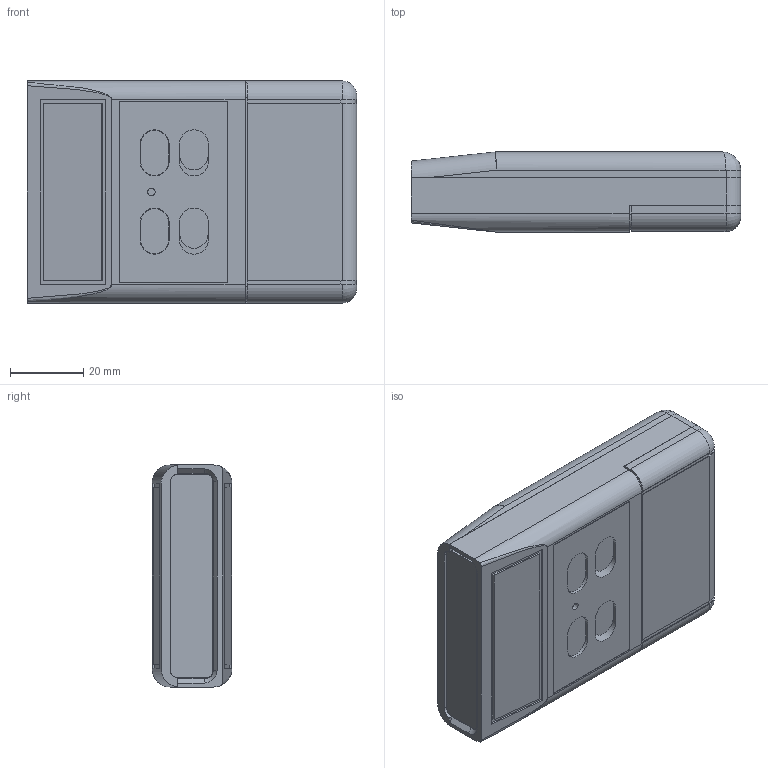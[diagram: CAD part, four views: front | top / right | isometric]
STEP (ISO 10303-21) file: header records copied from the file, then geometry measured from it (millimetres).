
FILE_DESCRIPTION (( 'STEP AP214' ), '1' );
FILE_NAME ('Conjunt PP64E.STEP', '2017-09-14T07:35:24', ( 'aaa' ), ( '' ), 'SwSTEP 2.0', 'SolidWorks 2013', '' );
FILE_SCHEMA (( 'AUTOMOTIVE_DESIGN' ));
Length unit declared in the file: millimetre
Products named in the file (16): Tapeta Botones PP64E; Pulsador vermell PP64E; Butó vermell PP64E; Pulsador negre PP64E; Butó negre PP64E; Tapa Trasera PP64E; Cargol 2,1x6,5 PP64E; Cargol 2,2x13 PP64E; Tapa delantera PP64E; Tapa PP64E; Cuerpo PP64E; Conjunt PP64E; Pulsador groc PP64E; Pulsador blau PP64E; Butó groc PP64E; Butó blau PP64E
Assembly tree (18 placements, depth 2):
  Conjunt PP64E
    Cuerpo PP64E
    Tapa PP64E
    Tapa delantera PP64E
    Cargol 2,2x13 PP64E  x2
    Cargol 2,1x6,5 PP64E  x3
    Tapa Trasera PP64E
    Butó negre PP64E
    Pulsador negre PP64E
    Butó vermell PP64E
    Pulsador vermell PP64E
    Tapeta Botones PP64E
    Butó blau PP64E
    Butó groc PP64E
    Pulsador blau PP64E
    Pulsador groc PP64E
Bounding box: 90 x 21.8 x 60.7 mm (x, y, z)
Volume: 38151.9 mm3; surface area: 42764.1 mm2
Topology: 18 solids, 18 shells, 945 faces, 2229 edges, 1361 vertices
Faces by surface type: plane 449, cone 316, cylinder 164, bspline 8, torus 8
Entity records: 21788 total; most frequent: CARTESIAN_POINT 4044, DIRECTION 3595, ORIENTED_EDGE 3478, EDGE_CURVE 1739, LINE 1245, VECTOR 1245, AXIS2_PLACEMENT_3D 1175, VERTEX_POINT 1102
